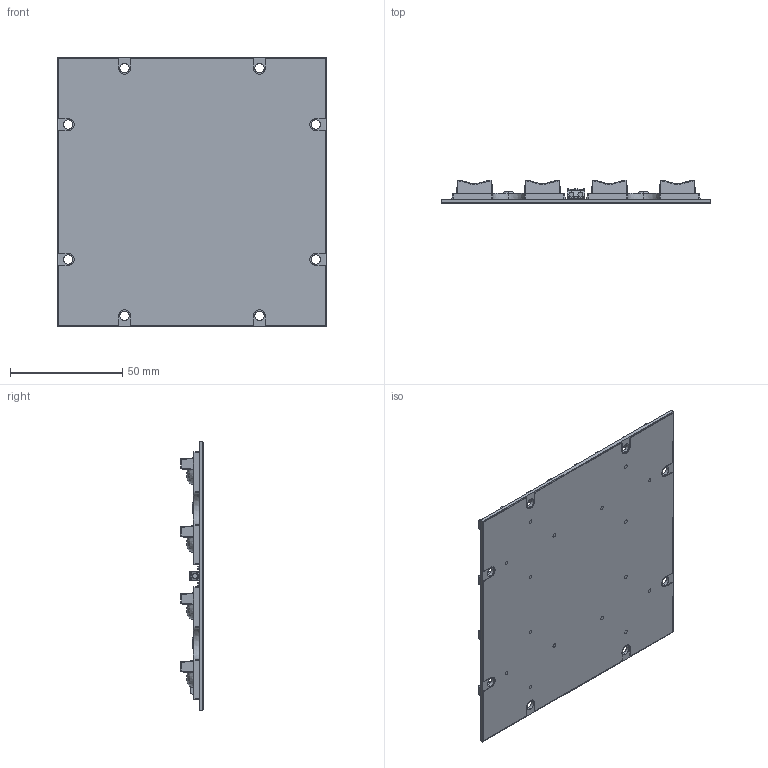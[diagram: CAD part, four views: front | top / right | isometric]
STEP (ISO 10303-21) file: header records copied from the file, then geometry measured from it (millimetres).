
FILE_DESCRIPTION (( 'STEP AP214' ), '1' );
FILE_NAME ('RED-WU-M-475-MClass.STEP', '2015-08-19T13:12:58', ( 'Admin' ), ( 'Microsoft' ), 'SwSTEP 2.0', 'SolidWorks 2015', '' );
FILE_SCHEMA (( 'AUTOMOTIVE_DESIGN' ));
Length unit declared in the file: millimetre
Products named in the file (11): R0805; Nichia NVSL219A; 001529 PCB-Lötpaste; 001529 PCB-LSL; 001529 PCB-Base; RED-WU-M-475-MClass; RED-DuOp-M-Class; 2060-452; 2060-451; 001529 PCB-Thermal-Tape; SUB_SMA SS14L
Assembly tree (45 placements, depth 2):
  RED-WU-M-475-MClass
    001529 PCB-Base
    001529 PCB-LSL
    001529 PCB-Lötpaste
    Nichia NVSL219A  x16
    R0805  x16
    SUB_SMA SS14L
    001529 PCB-Thermal-Tape
    2060-451  x2
    2060-452  x2
    RED-DuOp-M-Class  x4
Bounding box: 120 x 10.25 x 120 mm (x, y, z)
Volume: 26009.7 mm3; surface area: 85854.4 mm2
Topology: 284 solids, 288 shells, 9133 faces, 23461 edges, 15422 vertices
Faces by surface type: plane 5448, cylinder 2289, bspline 1040, cone 220, torus 96, sphere 40
Entity records: 252266 total; most frequent: CARTESIAN_POINT 77362, ORIENTED_EDGE 27800, DIRECTION 25809, EDGE_CURVE 13916, VECTOR 9565, LINE 9565, VERTEX_POINT 9225, AXIS2_PLACEMENT_3D 8122
